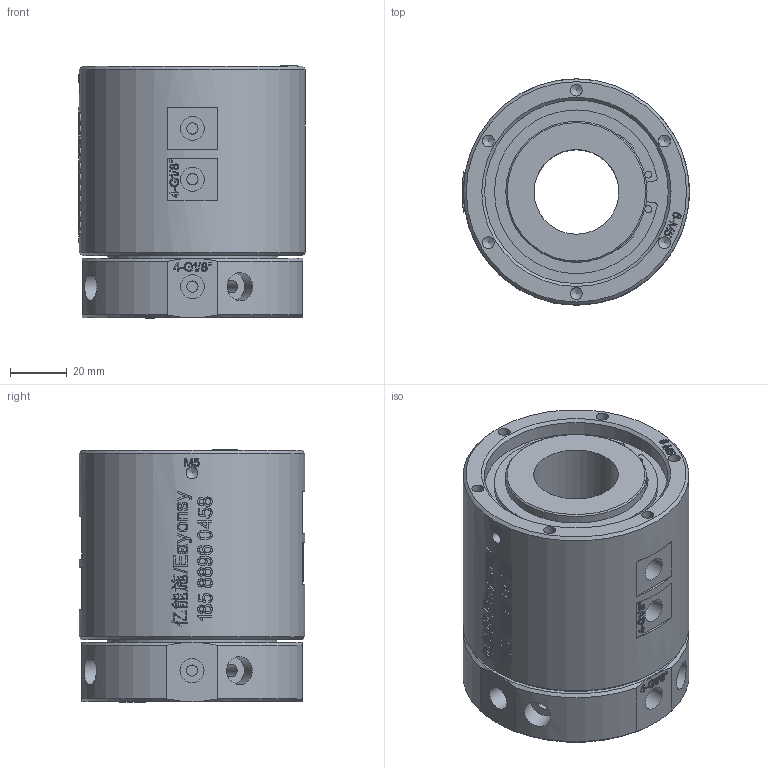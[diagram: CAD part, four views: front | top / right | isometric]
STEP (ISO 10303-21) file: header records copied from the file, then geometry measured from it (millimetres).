
FILE_DESCRIPTION(/* description */ (''),/* implementation_level */ '2;1');
FILE_NAME(/* name */ 'YQ0401-D30-3D模型.stp',/* time_stamp */ '2025-08-06T09:31:50+08:00',/* author */ (''),/* organization */ (''),/* preprocessor_version */ 'ST-DEVELOPER v16.7',/* originating_system */ 'SIEMENS PLM Software NX 12.0',/* authorisation */ '');
FILE_SCHEMA (('AUTOMOTIVE_DESIGN { 1 0 10303 214 3 1 1 1 }'));
Products named in the file (1): Admi3F746D2Ejq8y
Bounding box: 80.7 x 80 x 89.4 mm (x, y, z)
Volume: 360572.7 mm3; surface area: 54262.3 mm2
Topology: 1 solids, 1 shells, 1312 faces, 3558 edges, 2369 vertices
Faces by surface type: extrusion 683, plane 446, cylinder 101, bspline 57, cone 25
Full cylindrical faces by diameter (mm): 2.5 x2, 4 x15, 4.1 x4, 4.2 x12, 4.5 x4, 6.8 x4, 8.5 x8, 10 x4, 30 x1, 47 x1, 50 x1, 60 x1, 65 x1, 72 x1, 80 x1
Entity records: 51204 total; most frequent: CARTESIAN_POINT 23726, ORIENTED_EDGE 6846, EDGE_CURVE 3423, B_SPLINE_CURVE_WITH_KNOTS 3294, DIRECTION 2979, VERTEX_POINT 2326, EDGE_LOOP 1523, ADVANCED_FACE 1312
